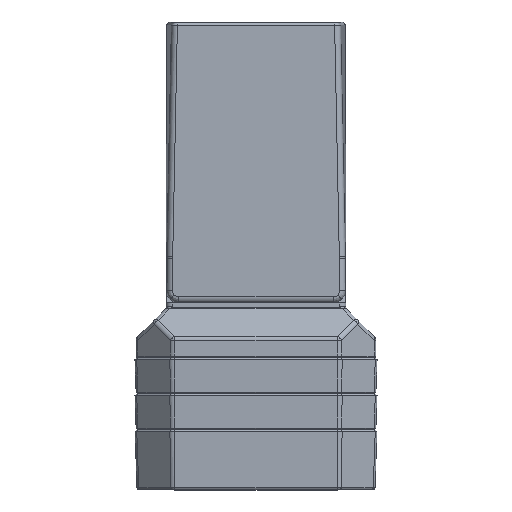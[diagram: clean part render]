
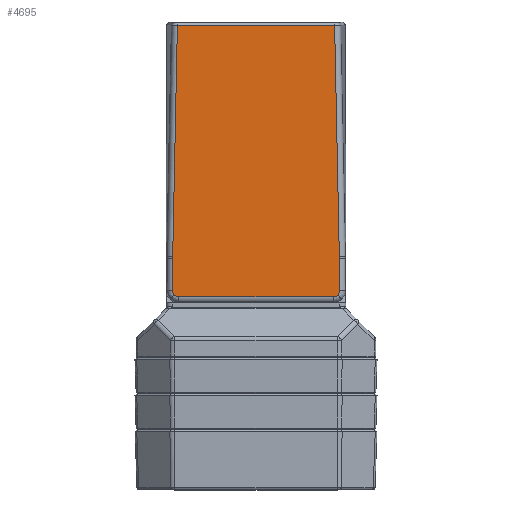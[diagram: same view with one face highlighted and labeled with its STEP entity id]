
A CAD part, top view. The second image highlights one B-rep face of the part: STEP entity #4695.
In plain terms, the highlighted planar face has unit normal (0, 0, 1) as drawn and (0, 1, 0) by its records, which use the part's own axes.
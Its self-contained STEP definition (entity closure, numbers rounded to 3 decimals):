
#2 = ORIENTED_EDGE ( 'NONE', *, *, #10598, .T. ) ;
#20 = CARTESIAN_POINT ( 'NONE',  ( -32.805, 37.5, -108.47 ) ) ;
#297 = CARTESIAN_POINT ( 'NONE',  ( 34.794, 37.5, 2.285 ) ) ;
#356 = CARTESIAN_POINT ( 'NONE',  ( -34.064, 37.5, 4.055 ) ) ;
#593 =( BOUNDED_CURVE ( )  B_SPLINE_CURVE ( 3, ( #2328, #15055, #2245, #14966 ),
 .UNSPECIFIED., .F., .T. ) 
 B_SPLINE_CURVE_WITH_KNOTS ( ( 4, 4 ),
 ( 5.497, 6.283 ),
 .UNSPECIFIED. ) 
 CURVE ( )  GEOMETRIC_REPRESENTATION_ITEM ( )  RATIONAL_B_SPLINE_CURVE ( ( 1., 0.949, 0.949, 1. ) ) 
 REPRESENTATION_ITEM ( '' )  );
#876 = CARTESIAN_POINT ( 'NONE',  ( -32.295, 37.5, 4.789 ) ) ;
#910 = VERTEX_POINT ( 'NONE', #15439 ) ;
#1114 = EDGE_CURVE ( 'NONE', #6812, #12302, #5396, .T. ) ;
#1235 = CARTESIAN_POINT ( 'NONE',  ( -34.755, 37.5, -12.016 ) ) ;
#1314 = CARTESIAN_POINT ( 'NONE',  ( 32.968, 37.5, 4.789 ) ) ;
#1545 = CARTESIAN_POINT ( 'NONE',  ( -34.794, 37.5, 2.285 ) ) ;
#1762 = CARTESIAN_POINT ( 'NONE',  ( -34.761, 37.5, -11.73 ) ) ;
#1795 = CARTESIAN_POINT ( 'NONE',  ( 34.795, 37.5, 2.958 ) ) ;
#1841 = CARTESIAN_POINT ( 'NONE',  ( -35.12, 37.5, 6.032 ) ) ;
#1951 = EDGE_CURVE ( 'NONE', #8883, #6812, #593, .T. ) ;
#1973 = EDGE_CURVE ( 'NONE', #5570, #6138, #6357, .T. ) ;
#2245 = CARTESIAN_POINT ( 'NONE',  ( -34.539, 37.5, 3.579 ) ) ;
#2309 = CARTESIAN_POINT ( 'NONE',  ( 32.805, 37.5, -108.47 ) ) ;
#2328 = CARTESIAN_POINT ( 'NONE',  ( -34.794, 37.5, 2.285 ) ) ;
#2364 = ORIENTED_EDGE ( 'NONE', *, *, #1973, .T. ) ;
#2643 = CARTESIAN_POINT ( 'NONE',  ( 34.755, 37.5, -12.016 ) ) ;
#2834 =( BOUNDED_CURVE ( )  B_SPLINE_CURVE ( 3, ( #15193, #1314, #16445, #15432 ),
 .UNSPECIFIED., .F., .T. ) 
 B_SPLINE_CURVE_WITH_KNOTS ( ( 4, 4 ),
 ( 5.497, 6.283 ),
 .UNSPECIFIED. ) 
 CURVE ( )  GEOMETRIC_REPRESENTATION_ITEM ( )  RATIONAL_B_SPLINE_CURVE ( ( 1., 0.949, 0.949, 1. ) ) 
 REPRESENTATION_ITEM ( '' )  );
#2951 = DIRECTION ( 'NONE',  ( -0.002, 0., -1. ) ) ;
#3286 = CARTESIAN_POINT ( 'NONE',  ( 32.785, 37.5, -109.434 ) ) ;
#3598 = VECTOR ( 'NONE', #11196, 1000. ) ;
#3705 = VECTOR ( 'NONE', #11241, 1000. ) ;
#4326 = ORIENTED_EDGE ( 'NONE', *, *, #9074, .T. ) ;
#4581 = ORIENTED_EDGE ( 'NONE', *, *, #11813, .T. ) ;
#4586 = ORIENTED_EDGE ( 'NONE', *, *, #1114, .T. ) ;
#4611 = DIRECTION ( 'NONE',  ( 1., 0., 0. ) ) ;
#4695 = ADVANCED_FACE ( 'NONE', ( #14520 ), #13278, .F. ) ;
#4795 = CARTESIAN_POINT ( 'NONE',  ( -34.805, 37.5, 7.342 ) ) ;
#4878 = EDGE_CURVE ( 'NONE', #9443, #13267, #8673, .T. ) ;
#5142 = ORIENTED_EDGE ( 'NONE', *, *, #1951, .T. ) ;
#5305 = ORIENTED_EDGE ( 'NONE', *, *, #15605, .T. ) ;
#5396 =( BOUNDED_CURVE ( )  B_SPLINE_CURVE ( 3, ( #16018, #8328, #14679, #876 ),
 .UNSPECIFIED., .F., .T. ) 
 B_SPLINE_CURVE_WITH_KNOTS ( ( 4, 4 ),
 ( 0., 0.786 ),
 .UNSPECIFIED. ) 
 CURVE ( )  GEOMETRIC_REPRESENTATION_ITEM ( )  RATIONAL_B_SPLINE_CURVE ( ( 1., 0.949, 0.949, 1. ) ) 
 REPRESENTATION_ITEM ( '' )  );
#5570 = VERTEX_POINT ( 'NONE', #8863 ) ;
#5615 = CARTESIAN_POINT ( 'NONE',  ( -34.755, 37.5, -12.016 ) ) ;
#5860 = LINE ( 'NONE', #1841, #13225 ) ;
#5961 = LINE ( 'NONE', #3286, #7982 ) ;
#6138 = VERTEX_POINT ( 'NONE', #12709 ) ;
#6310 = EDGE_LOOP ( 'NONE', ( #4326, #7316, #4581, #10629, #12811, #5142, #4586, #2, #12729, #5305, #7338, #2364 ) ) ;
#6357 =( BOUNDED_CURVE ( )  B_SPLINE_CURVE ( 3, ( #7450, #15441, #14092, #2643 ),
 .UNSPECIFIED., .F., .T. ) 
 B_SPLINE_CURVE_WITH_KNOTS ( ( 4, 4 ),
 ( 3.133, 3.151 ),
 .UNSPECIFIED. ) 
 CURVE ( )  GEOMETRIC_REPRESENTATION_ITEM ( )  RATIONAL_B_SPLINE_CURVE ( ( 1., 1., 1., 1. ) ) 
 REPRESENTATION_ITEM ( '' )  );
#6487 = EDGE_CURVE ( 'NONE', #15365, #9663, #2834, .T. ) ;
#6502 = CARTESIAN_POINT ( 'NONE',  ( 34.064, 37.5, 4.055 ) ) ;
#6812 = VERTEX_POINT ( 'NONE', #356 ) ;
#7316 = ORIENTED_EDGE ( 'NONE', *, *, #4878, .T. ) ;
#7338 = ORIENTED_EDGE ( 'NONE', *, *, #13427, .T. ) ;
#7450 = CARTESIAN_POINT ( 'NONE',  ( 34.765, 37.5, -11.16 ) ) ;
#7711 = LINE ( 'NONE', #4795, #3705 ) ;
#7982 = VECTOR ( 'NONE', #8388, 1000. ) ;
#8089 = CARTESIAN_POINT ( 'NONE',  ( 32.295, 37.5, 4.789 ) ) ;
#8307 = EDGE_CURVE ( 'NONE', #15001, #910, #10683, .T. ) ;
#8328 = CARTESIAN_POINT ( 'NONE',  ( -33.589, 37.5, 4.531 ) ) ;
#8388 = DIRECTION ( 'NONE',  ( -0.02, 0., -1. ) ) ;
#8498 = VECTOR ( 'NONE', #2951, 1000. ) ;
#8673 = LINE ( 'NONE', #10867, #3598 ) ;
#8863 = CARTESIAN_POINT ( 'NONE',  ( 34.765, 37.5, -11.16 ) ) ;
#8883 = VERTEX_POINT ( 'NONE', #1545 ) ;
#9074 = EDGE_CURVE ( 'NONE', #6138, #9443, #5961, .T. ) ;
#9183 = VERTEX_POINT ( 'NONE', #14739 ) ;
#9369 = DIRECTION ( 'NONE',  ( 0., -1., 0. ) ) ;
#9443 = VERTEX_POINT ( 'NONE', #2309 ) ;
#9663 = VERTEX_POINT ( 'NONE', #6502 ) ;
#9720 = CARTESIAN_POINT ( 'NONE',  ( 37.5, 37.5, 4.789 ) ) ;
#10573 = CARTESIAN_POINT ( 'NONE',  ( -34.764, 37.5, -11.445 ) ) ;
#10598 = EDGE_CURVE ( 'NONE', #12302, #15365, #13639, .T. ) ;
#10629 = ORIENTED_EDGE ( 'NONE', *, *, #8307, .T. ) ;
#10683 =( BOUNDED_CURVE ( )  B_SPLINE_CURVE ( 3, ( #5615, #1762, #10573, #15806 ),
 .UNSPECIFIED., .F., .T. ) 
 B_SPLINE_CURVE_WITH_KNOTS ( ( 4, 4 ),
 ( 3.133, 3.151 ),
 .UNSPECIFIED. ) 
 CURVE ( )  GEOMETRIC_REPRESENTATION_ITEM ( )  RATIONAL_B_SPLINE_CURVE ( ( 1., 1., 1., 1. ) ) 
 REPRESENTATION_ITEM ( '' )  );
#10867 = CARTESIAN_POINT ( 'NONE',  ( 37.5, 37.5, -108.47 ) ) ;
#11196 = DIRECTION ( 'NONE',  ( -1., 0., 0. ) ) ;
#11241 = DIRECTION ( 'NONE',  ( -0.002, 0., 1. ) ) ;
#11813 = EDGE_CURVE ( 'NONE', #13267, #15001, #5860, .T. ) ;
#11890 = AXIS2_PLACEMENT_3D ( 'NONE', #11943, #9369, #13195 ) ;
#11943 = CARTESIAN_POINT ( 'NONE',  ( 37.5, 37.5, 7.5 ) ) ;
#11994 = CARTESIAN_POINT ( 'NONE',  ( -32.295, 37.5, 4.789 ) ) ;
#12302 = VERTEX_POINT ( 'NONE', #11994 ) ;
#12667 = VECTOR ( 'NONE', #4611, 1000. ) ;
#12709 = CARTESIAN_POINT ( 'NONE',  ( 34.755, 37.5, -12.016 ) ) ;
#12729 = ORIENTED_EDGE ( 'NONE', *, *, #6487, .T. ) ;
#12811 = ORIENTED_EDGE ( 'NONE', *, *, #13646, .T. ) ;
#12995 = LINE ( 'NONE', #14402, #8498 ) ;
#13195 = DIRECTION ( 'NONE',  ( 0., 0., -1. ) ) ;
#13225 = VECTOR ( 'NONE', #16055, 1000. ) ;
#13262 = CARTESIAN_POINT ( 'NONE',  ( 34.539, 37.5, 3.579 ) ) ;
#13267 = VERTEX_POINT ( 'NONE', #20 ) ;
#13278 = PLANE ( 'NONE',  #11890 ) ;
#13427 = EDGE_CURVE ( 'NONE', #9183, #5570, #12995, .T. ) ;
#13639 = LINE ( 'NONE', #9720, #12667 ) ;
#13646 = EDGE_CURVE ( 'NONE', #910, #8883, #7711, .T. ) ;
#14092 = CARTESIAN_POINT ( 'NONE',  ( 34.761, 37.5, -11.73 ) ) ;
#14246 = CARTESIAN_POINT ( 'NONE',  ( 34.064, 37.5, 4.055 ) ) ;
#14402 = CARTESIAN_POINT ( 'NONE',  ( 34.765, 37.5, -11.159 ) ) ;
#14520 = FACE_OUTER_BOUND ( 'NONE', #6310, .T. ) ;
#14679 = CARTESIAN_POINT ( 'NONE',  ( -32.968, 37.5, 4.789 ) ) ;
#14739 = CARTESIAN_POINT ( 'NONE',  ( 34.794, 37.5, 2.285 ) ) ;
#14946 =( BOUNDED_CURVE ( )  B_SPLINE_CURVE ( 3, ( #14246, #13262, #1795, #297 ),
 .UNSPECIFIED., .F., .T. ) 
 B_SPLINE_CURVE_WITH_KNOTS ( ( 4, 4 ),
 ( 0., 0.786 ),
 .UNSPECIFIED. ) 
 CURVE ( )  GEOMETRIC_REPRESENTATION_ITEM ( )  RATIONAL_B_SPLINE_CURVE ( ( 1., 0.949, 0.949, 1. ) ) 
 REPRESENTATION_ITEM ( '' )  );
#14966 = CARTESIAN_POINT ( 'NONE',  ( -34.064, 37.5, 4.055 ) ) ;
#15001 = VERTEX_POINT ( 'NONE', #1235 ) ;
#15055 = CARTESIAN_POINT ( 'NONE',  ( -34.795, 37.5, 2.958 ) ) ;
#15193 = CARTESIAN_POINT ( 'NONE',  ( 32.295, 37.5, 4.789 ) ) ;
#15365 = VERTEX_POINT ( 'NONE', #8089 ) ;
#15432 = CARTESIAN_POINT ( 'NONE',  ( 34.064, 37.5, 4.055 ) ) ;
#15439 = CARTESIAN_POINT ( 'NONE',  ( -34.765, 37.5, -11.16 ) ) ;
#15441 = CARTESIAN_POINT ( 'NONE',  ( 34.764, 37.5, -11.445 ) ) ;
#15605 = EDGE_CURVE ( 'NONE', #9663, #9183, #14946, .T. ) ;
#15806 = CARTESIAN_POINT ( 'NONE',  ( -34.765, 37.5, -11.16 ) ) ;
#16018 = CARTESIAN_POINT ( 'NONE',  ( -34.064, 37.5, 4.055 ) ) ;
#16055 = DIRECTION ( 'NONE',  ( -0.02, 0., 1. ) ) ;
#16445 = CARTESIAN_POINT ( 'NONE',  ( 33.589, 37.5, 4.531 ) ) ;
